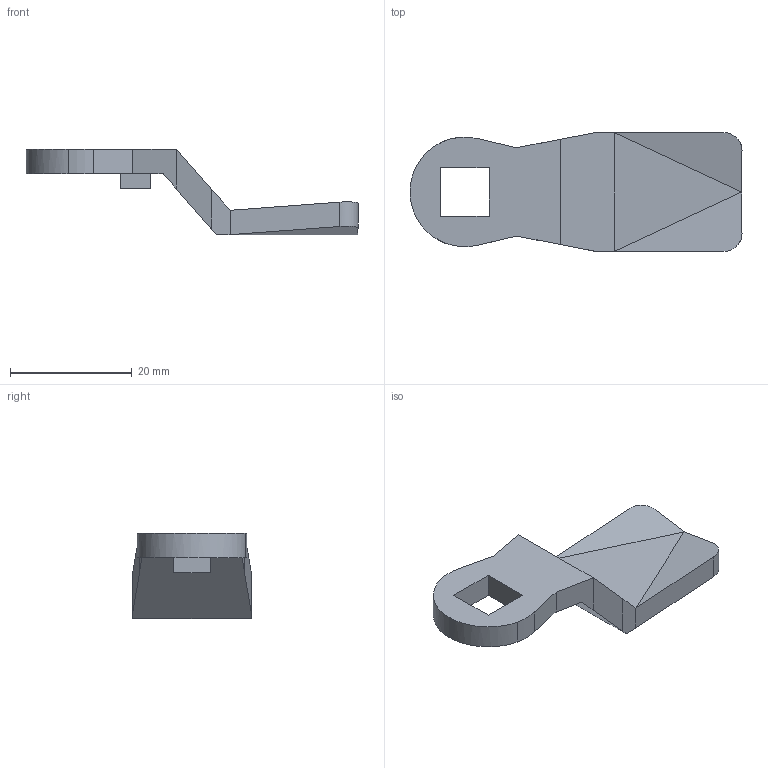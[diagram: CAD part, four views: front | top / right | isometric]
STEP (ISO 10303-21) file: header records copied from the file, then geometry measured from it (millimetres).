
FILE_DESCRIPTION (( 'STEP AP214' ), '1' );
FILE_NAME ('1.4046 Salpa -10.STEP', '2025-08-06T08:54:42', ( '' ), ( '' ), 'SwSTEP 2.0', 'SolidWorks 2025', '' );
FILE_SCHEMA (( 'AUTOMOTIVE_DESIGN' ));
Length unit declared in the file: millimetre
Products named in the file (1): 1.4046 Salpa -10
Bounding box: 54.5 x 19.5 x 14 mm (x, y, z)
Volume: 4036.2 mm3; surface area: 2725.8 mm2
Topology: 1 solids, 1 shells, 35 faces, 84 edges, 52 vertices
Faces by surface type: plane 31, cylinder 4
Entity records: 1201 total; most frequent: CARTESIAN_POINT 532, ORIENTED_EDGE 168, EDGE_CURVE 84, B_SPLINE_CURVE_WITH_KNOTS 84, DIRECTION 72, VERTEX_POINT 52, EDGE_LOOP 38, AXIS2_PLACEMENT_3D 36
